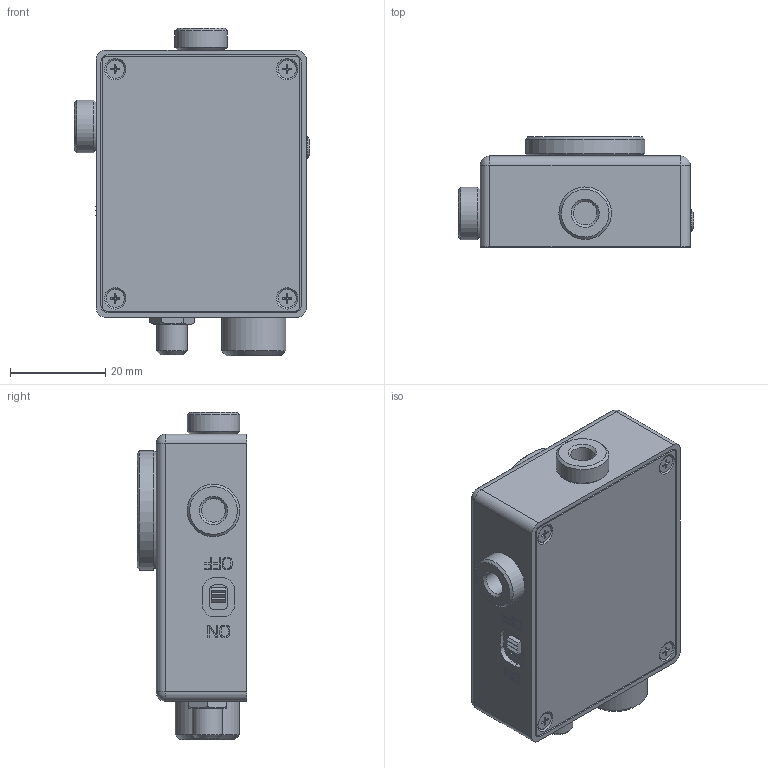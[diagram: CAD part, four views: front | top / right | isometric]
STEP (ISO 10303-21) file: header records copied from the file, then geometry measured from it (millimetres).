
FILE_DESCRIPTION(/* description */ (''),/* implementation_level */ '2;1');
FILE_NAME(/* name */ 'D:\VaultWorkFolder\ElectroLand\Проекты\030 OD2 Фотоприемник смещенный\OD2.0001-01 МС Фотоприемник_Shrinkwrap OD-08A.stp',/* time_stamp */ '2019-07-31T19:34:57+03:00',/* author */ ('svlad'),/* organization */ (''),/* preprocessor_version */ 'ST-DEVELOPER v17',/* originating_system */ 'Autodesk Inventor 2019',/* authorisation */ '');
FILE_SCHEMA (('AUTOMOTIVE_DESIGN { 1 0 10303 214 3 1 1 }'));
Products named in the file (1): OD2.0001-01 МС Фотоприемник_
Shrinkwrap OD-08A
Bounding box: 49.24 x 23 x 68.54 mm (x, y, z)
Volume: 48621.2 mm3; surface area: 11530.8 mm2
Topology: 1 solids, 6 shells, 1311 faces, 3569 edges, 2379 vertices
Faces by surface type: plane 740, bspline 391, cylinder 103, cone 55, torus 17, sphere 5
Full cylindrical faces by diameter (mm): 1.567 x3, 3.8 x4, 4.5 x1, 4.7 x1, 4.917 x2, 5 x2, 6.4 x2, 7 x1, 10.2 x1, 10.4 x1, 11 x2, 12 x1, 12.5 x1, 12.918 x1, 13.5 x1, 15.8 x1, 16 x1, 25 x1
Entity records: 49747 total; most frequent: CARTESIAN_POINT 17780, ORIENTED_EDGE 7130, DIRECTION 4828, EDGE_CURVE 3565, VERTEX_POINT 2379, LINE 2270, VECTOR 2270, EDGE_LOOP 1466
